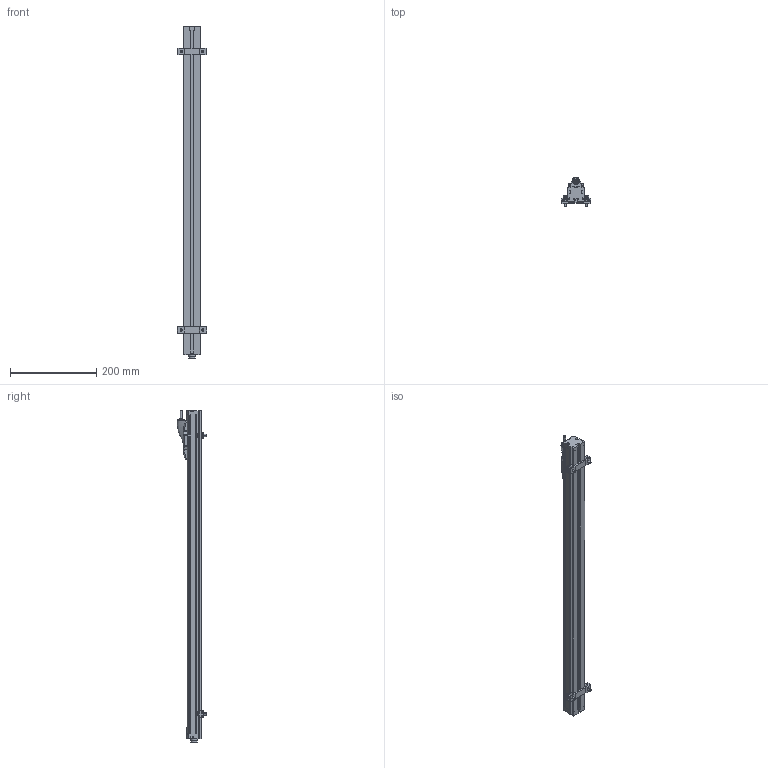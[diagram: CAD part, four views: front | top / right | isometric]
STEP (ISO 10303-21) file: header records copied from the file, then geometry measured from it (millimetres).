
FILE_DESCRIPTION(('STEP AP214'),'1');
FILE_NAME('burster_8718-600_9lulgf1oijz3ech20ajre5lh8.stp','2017-04-18T16:23:01',('TraceParts'),('TraceParts S.A.'),'Spatial InterOp 3D',' ',' ');
FILE_SCHEMA(('automotive_design'));
Length unit declared in the file: millimetre
Products named in the file (1): burster_8718-600_9lulgf1oijz3ech20ajre5lh8
Bounding box: 68 x 67.8 x 770 mm (x, y, z)
Volume: 913162.1 mm3; surface area: 167625.5 mm2
Topology: 1 solids, 2 shells, 621 faces, 1756 edges, 1126 vertices
Faces by surface type: plane 330, cylinder 203, cone 32, torus 28, bspline 18, sphere 10
Entity records: 26951 total; most frequent: CARTESIAN_POINT 5689, ORIENTED_EDGE 3456, DIRECTION 3417, EDGE_CURVE 1728, AXIS2_PLACEMENT_3D 1158, VERTEX_POINT 1126, LINE 1101, VECTOR 1101
